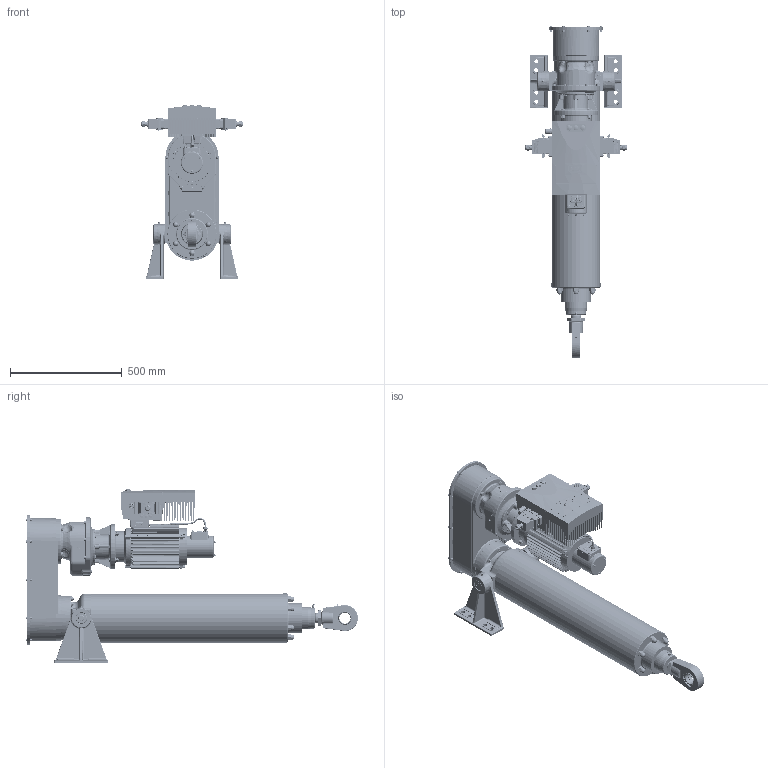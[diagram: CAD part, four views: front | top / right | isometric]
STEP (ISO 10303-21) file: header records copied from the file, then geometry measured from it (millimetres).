
FILE_DESCRIPTION( ( '153-599-4' ), '1' );
FILE_NAME( 'C:/daten/bearbeitung katalogbilder/RBs rendern/austausch pomplun/mit identnr/T1N8-RM-0600-160-247-0.stp', 'Unknown', ( 'Christoph Hahmann' ), ( 'RACO-ELEKTRO-MASCHINEN GmbH' ), 'PSStep 17.0.49', 'Solid Edge ST 7', ' ' );
FILE_SCHEMA( ( 'AUTOMOTIVE_DESIGN { 1 0 10303 214 1 1 1 1 }' ) );
Length unit declared in the file: millimetre
Products named in the file (17): Assem1; 03.01-08 kpl; 02.14-08-0600; 01.15-08-0600 NEU; 02.01-08 kpl; 01.74-08 156-849-3; M6-101-525-7 ; 01.01-08 Gelenkkopf 141-544-1; Gehäuse A2- CAN; Adapterplatte für 5,5kW; 157-716-6-2; BG3-155-451-4-kpl; 03.65-08 2 Füße; 12.00-08 kpl; 108-359-7 kpl; Kabel zu Motor 100LX8-100L4; 100LX8-100L4-141-971-4 mit Adapter
Assembly tree (16 placements, depth 2):
  Assem1
    03.01-08 kpl
    02.14-08-0600
    01.15-08-0600 NEU
    02.01-08 kpl
    01.74-08 156-849-3
    M6-101-525-7 
    01.01-08 Gelenkkopf 141-544-1
    Gehäuse A2- CAN
    Adapterplatte für 5,5kW
    157-716-6-2
    BG3-155-451-4-kpl
    03.65-08 2 Füße
    12.00-08 kpl
    108-359-7 kpl
    Kabel zu Motor 100LX8-100L4
    100LX8-100L4-141-971-4 mit Adapter
Bounding box: 454.49 x 1484.98 x 776.55 mm (x, y, z)
Surface area: 4792939.1 mm2 (no closed solid volume)
Topology: 0 solids, 12822 shells, 12838 faces, 61785 edges, 59683 vertices
Faces by surface type: plane 6205, cylinder 3151, cone 1297, bspline 1114, torus 671, sphere 378, extrusion 22
Full cylindrical faces by diameter (mm): 1.6 x2, 2 x7, 2.6 x1, 3 x31, 3.141 x8, 3.242 x24, 4 x23, 4.134 x12, 4.4 x8, 4.5 x12, 4.773 x10, 4.917 x9, 5 x28, 5.3 x3, 5.5 x13, 5.7 x7, 6 x23, 6.4 x10, 6.466 x14, 6.47 x4, 6.647 x8, 6.8 x12, 6.917 x2, 7 x23, 7.5 x3, 7.6 x8, 8 x41, 8.15 x1, 8.16 x4, 8.2 x1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
Entity records: 954100 total; most frequent: CARTESIAN_POINT 402408, DIRECTION 94758, VERTEX_POINT 58935, ORIENTED_EDGE 58852, EDGE_CURVE 58852, AXIS2_PLACEMENT_3D 32604, VECTOR 29550, LINE 29528
